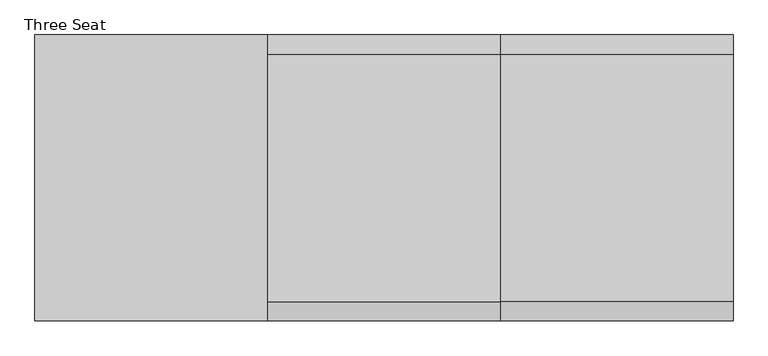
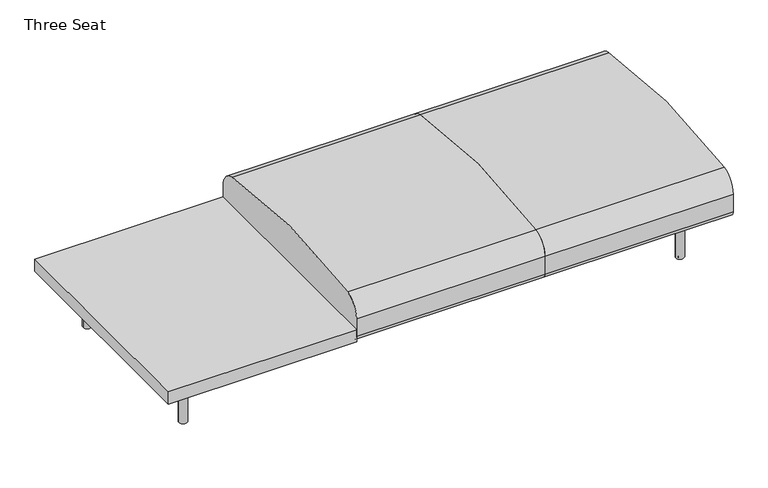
"""IFC4 building model written with IfcOpenShell, lengths in millimetres: furniture geometry, Coalesse_AM_Seating_LoungeChair_Sistema_LegBase_ThreeSeat : Three Seat."""

import ifcopenshell
import ifcopenshell.guid

model = None  # the IFC model being written
_history = None  # IfcOwnerHistory: only IFC2X3 demands one
_inside = {}  # id of a spatial element -> (the spatial element, [elements in it])
_under = {}  # id of a project, library or spatial element -> (it, [spatial elements below it])
_declared = {}  # id of a project -> (the project, [libraries it declares])
_typed = {}  # id of a type object -> (the type object, [elements of that type])
_made_of = {}  # id of a material, layer set ... -> (it, [elements and type objects made of it])


def new_model(schema):
    """Start an empty IFC model of exactly this schema.

    Asked for "IFC4X3", IfcOpenShell would pick the latest addendum, in which some entities
    have other attributes; the version numbers below select the first issue.
    IFC2X3 requires an IfcOwnerHistory on every rooted entity: one is made here for all.
    """
    global model, _history
    if schema == "IFC4X3":
        model = ifcopenshell.file(schema_version=(4, 3, 0, 0))
    else:
        model = ifcopenshell.file(schema=schema)
    _inside.clear()
    _under.clear()
    _declared.clear()
    _typed.clear()
    _made_of.clear()
    _history = None
    if model.schema == "IFC2X3":
        org = make("IfcOrganization", Name="unknown")
        user = make(
            "IfcPersonAndOrganization",
            ThePerson=make("IfcPerson", FamilyName="unknown"),
            TheOrganization=org,
        )
        app = make(
            "IfcApplication",
            ApplicationDeveloper=org,
            Version="unknown",
            ApplicationFullName="unknown",
            ApplicationIdentifier="unknown",
        )
        _history = make(
            "IfcOwnerHistory",
            OwningUser=user,
            OwningApplication=app,
            ChangeAction="ADDED",
            CreationDate=0,
        )
    return model


def make(cls, **values):
    """One entity of the class cls with the attributes given. An attribute that is None is left unset."""
    return model.create_entity(
        cls, **{name: value for name, value in values.items() if value is not None}
    )


def rooted(cls, **values):
    """An entity with a GlobalId (a new one), such as an element, a storey or a relation."""
    return make(cls, GlobalId=ifcopenshell.guid.new(), OwnerHistory=_history, **values)


def si_unit(unit_type, name, prefix=None):
    """IfcSIUnit, for example si_unit("LENGTHUNIT", "METRE", prefix="MILLI")."""
    return make("IfcSIUnit", UnitType=unit_type, Prefix=prefix, Name=name)


def assignment(units):
    """IfcUnitAssignment: the units of a project."""
    return None if units is None else make("IfcUnitAssignment", Units=units)


def point(xyz):
    """IfcCartesianPoint."""
    return None if xyz is None else make("IfcCartesianPoint", Coordinates=xyz)


def direction(xyz):
    """IfcDirection."""
    return None if xyz is None else make("IfcDirection", DirectionRatios=xyz)


def frame(location, z_axis=None, x_axis=None):
    """IfcAxis2Placement3D, a coordinate frame: its origin and axes. An axis left out is left unset."""
    return make(
        "IfcAxis2Placement3D",
        Location=point(location),
        Axis=direction(z_axis),
        RefDirection=direction(x_axis),
    )


def frame_2d(location, x_axis=None):
    """IfcAxis2Placement2D, a coordinate frame in the plane: its origin and x axis."""
    return make(
        "IfcAxis2Placement2D", Location=point(location), RefDirection=direction(x_axis)
    )


def origin():
    """The frame at (0, 0, 0) with its axes left unset."""
    return frame((0.0, 0.0, 0.0))


def origin_with_axes():
    """The frame at (0, 0, 0) with the z axis (0, 0, 1) and the x axis (1, 0, 0) written out."""
    return frame((0.0, 0.0, 0.0), z_axis=(0.0, 0.0, 1.0), x_axis=(1.0, 0.0, 0.0))


def place(relative_to, where):
    """IfcLocalPlacement: puts the frame where relative to a parent placement (None: the world)."""
    return make(
        "IfcLocalPlacement", PlacementRelTo=relative_to, RelativePlacement=where
    )


def context(
    kind, dimensions, precision=None, world=None, true_north=None, identifier=None
):
    """IfcGeometricRepresentationContext, for example the 3D "Model" context."""
    return make(
        "IfcGeometricRepresentationContext",
        ContextIdentifier=identifier,
        ContextType=kind,
        CoordinateSpaceDimension=dimensions,
        Precision=precision,
        WorldCoordinateSystem=world,
        TrueNorth=true_north,
    )


def project(units=None, contexts=None):
    """IfcProject with its units and contexts."""
    return rooted(
        "IfcProject",
        Name="project",
        RepresentationContexts=contexts,
        UnitsInContext=assignment(units),
    )


def spatial(cls, under=None, at=None, **own):
    """A site, building, storey or space (cls), placed at a placement, below another one or the project."""
    s = rooted(cls, ObjectPlacement=at, **own)
    if under is not None:
        _under.setdefault(under.id(), (under, []))[1].append(s)
    return s


def polyline(points):
    """IfcPolyline through the points."""
    return make("IfcPolyline", Points=[point(p) for p in points])


def circle_curve(where, radius):
    """IfcCircle in the frame where."""
    return make("IfcCircle", Position=where, Radius=radius)


def trimmed(basis, trim1, trim2, sense, master):
    """IfcTrimmedCurve: the piece of a basis curve between two trims."""
    return make(
        "IfcTrimmedCurve",
        BasisCurve=basis,
        Trim1=trim1,
        Trim2=trim2,
        SenseAgreement=sense,
        MasterRepresentation=master,
    )


def segment(curve, same_sense, transition):
    """IfcCompositeCurveSegment."""
    return make(
        "IfcCompositeCurveSegment",
        Transition=transition,
        SameSense=same_sense,
        ParentCurve=curve,
    )


def composite_curve(segments, self_intersect=None):
    """IfcCompositeCurve: segments joined end to end."""
    return make("IfcCompositeCurve", Segments=segments, SelfIntersect=self_intersect)


def outline(outer, holes=None, kind="AREA"):
    """IfcArbitraryClosedProfileDef: a profile drawn as a closed curve; with holes, ...WithVoids."""
    if holes is None:
        return make("IfcArbitraryClosedProfileDef", ProfileType=kind, OuterCurve=outer)
    return make(
        "IfcArbitraryProfileDefWithVoids",
        ProfileType=kind,
        OuterCurve=outer,
        InnerCurves=holes,
    )


def extrude(swept, where, along, depth):
    """IfcExtrudedAreaSolid: the profile swept, set in the frame where, extruded along a direction by depth."""
    return make(
        "IfcExtrudedAreaSolid",
        SweptArea=swept,
        Position=where,
        ExtrudedDirection=direction(along),
        Depth=depth,
    )


def shape(context_of_items, identifier, shape_type, items):
    """IfcShapeRepresentation: the items that make up one representation, for example the "Body"."""
    return make(
        "IfcShapeRepresentation",
        ContextOfItems=context_of_items,
        RepresentationIdentifier=identifier,
        RepresentationType=shape_type,
        Items=items,
    )


def source(mapping_origin, context_of_items, identifier, shape_type, items):
    """IfcRepresentationMap: a shape defined once, which mapped items show again and again."""
    return make(
        "IfcRepresentationMap",
        MappingOrigin=mapping_origin,
        MappedRepresentation=shape(context_of_items, identifier, shape_type, items),
    )


def transform(
    local_origin,
    x_axis=None,
    y_axis=None,
    z_axis=None,
    scale=None,
    scale2=None,
    scale3=None,
    uniform=True,
):
    """IfcCartesianTransformationOperator3D, or its non-uniform kind. x_axis, y_axis, z_axis: its Axis1, 2, 3."""
    if uniform:
        return make(
            "IfcCartesianTransformationOperator3D",
            Axis1=direction(x_axis),
            Axis2=direction(y_axis),
            LocalOrigin=point(local_origin),
            Scale=scale,
            Axis3=direction(z_axis),
        )
    return make(
        "IfcCartesianTransformationOperator3DnonUniform",
        Axis1=direction(x_axis),
        Axis2=direction(y_axis),
        LocalOrigin=point(local_origin),
        Scale=scale,
        Axis3=direction(z_axis),
        Scale2=scale2,
        Scale3=scale3,
    )


def mapped(mapping_source, mapping_target):
    """IfcMappedItem: shows the shape of a source again, moved by a transform."""
    return make(
        "IfcMappedItem", MappingSource=mapping_source, MappingTarget=mapping_target
    )


def made_of(thing, what):
    """Note that an element or type object is made of a material, layer set ...; save() writes the relation."""
    if what is not None:
        _made_of.setdefault(what.id(), (what, []))[1].append(thing)
    return thing


def element(
    cls,
    number,
    at=None,
    inside=None,
    cuts=None,
    type_object=None,
    material=None,
    context=None,
    identifier="Body",
    shape_type=None,
    held_by="IfcProductDefinitionShape",
    body=None,
    shapes=None,
    **own,
):
    """One element of the class cls, such as IfcWall. Its Tag is "e" and its number.

    at: its placement. inside: the storey or other place that contains it. cuts: it is an
    opening in that element (IfcRelVoidsElement). A single representation is given by context,
    identifier, shape_type and body (its items); several are given by shapes. held_by: the class
    of the entity that holds the representations. save() writes the other relations.
    """
    e = rooted(cls, Tag="e%d" % number, ObjectPlacement=at, **own)
    if body is not None:
        shapes = [shape(context, identifier, shape_type, body)]
    if shapes is not None:
        e.Representation = make(held_by, Representations=shapes)
    if inside is not None:
        _inside.setdefault(inside.id(), (inside, []))[1].append(e)
    if cuts is not None:
        rooted(
            "IfcRelVoidsElement", RelatingBuildingElement=cuts, RelatedOpeningElement=e
        )
    if type_object is not None:
        _typed.setdefault(type_object.id(), (type_object, []))[1].append(e)
    return made_of(e, material)


def aggregate(whole, parts):
    """IfcRelAggregates: a whole, such as a stair, and the parts it consists of."""
    return rooted("IfcRelAggregates", RelatingObject=whole, RelatedObjects=parts)


def save(model, path):
    """Write the relations noted so far, then the file.

    IfcRelAggregates (storeys below a building ...), IfcRelContainedInSpatialStructure (elements
    in a storey), IfcRelDefinesByType, IfcRelAssociatesMaterial and IfcRelDeclares: one each for
    every whole, place, type object, material and project.
    """
    for whole, parts in _under.values():
        aggregate(whole, parts)
    for where, things in _inside.values():
        rooted(
            "IfcRelContainedInSpatialStructure",
            RelatedElements=things,
            RelatingStructure=where,
        )
    for kind, things in _typed.values():
        rooted("IfcRelDefinesByType", RelatedObjects=things, RelatingType=kind)
    for what, things in _made_of.values():
        rooted("IfcRelAssociatesMaterial", RelatedObjects=things, RelatingMaterial=what)
    for by, libraries in _declared.values():
        rooted("IfcRelDeclares", RelatingContext=by, RelatedDefinitions=libraries)
    model.write(path)


def three_seat_c71d713e(model_context):
    return source(origin(), model_context, "Body", "SweptSolid", [
        extrude(outline(polyline([(374.4965227, 459.4795619), (374.4965227, -461.2704381), (-374.8034773, -461.2704381), (-374.8034773, 459.4795619), (374.4965227, 459.4795619)])), frame((0.0, 0.0, 204.47), z_axis=(0.0, 0.0, 1.0), x_axis=(1.0, 0.0, 0.0)), (0.0, 0.0, 1.0), 51.0294654),
        extrude(outline(composite_curve([segment(trimmed(circle_curve(frame_2d((-438.9184381, 226.822)), 22.352), [point((-438.9184381, 204.47))], [point((-461.2704381, 226.822))], False, "CARTESIAN"), True, "CONTINUOUS"), segment(polyline([(-461.2704381, 226.822), (-461.2704381, 301.4421993)]), True, "CONTINUOUS"), segment(trimmed(circle_curve(frame_2d((-385.0704381, 301.4421993)), 76.2), [point((-461.2704381, 301.4421993))], [point((-398.9279534, 376.3715612))], False, "CARTESIAN"), True, "CONTINUOUS"), segment(trimmed(circle_curve(frame_2d((-0.3717831, -1778.6727457)), 2191.5891461), [point((-398.9279534, 376.3715612))], [point((397.0993513, 376.5719464))], False, "CARTESIAN"), True, "CONTINUOUS"), segment(trimmed(circle_curve(frame_2d((383.2795619, 301.6356173)), 76.2), [point((397.0993513, 376.5719464))], [point((459.4795619, 301.6356173))], False, "CARTESIAN"), True, "CONTINUOUS"), segment(polyline([(459.4795619, 301.6356173), (459.4795619, 226.7871991)]), True, "CONTINUOUS"), segment(trimmed(circle_curve(frame_2d((437.1623628, 226.7871991)), 22.3171991), [point((459.4795619, 226.7871991))], [point((437.1623628, 204.47))], False, "CARTESIAN"), True, "CONTINUOUS"), segment(polyline([(437.1623628, 204.47), (-438.9184381, 204.47)]), True, "CONTINUOUS")], self_intersect=False)), frame((374.4965227, 0.0, 0.0), z_axis=(1.0, 0.0, 0.0), x_axis=(0.0, 1.0, 0.0)), (0.0, 0.0, 1.0), 749.3),
        extrude(outline(composite_curve([segment(trimmed(circle_curve(frame_2d((-438.9184381, 226.822)), 22.352), [point((-438.9184381, 204.47))], [point((-461.2704381, 226.822))], False, "CARTESIAN"), True, "CONTINUOUS"), segment(polyline([(-461.2704381, 226.822), (-461.2704381, 301.4421993)]), True, "CONTINUOUS"), segment(trimmed(circle_curve(frame_2d((-385.0704381, 301.4421993)), 76.2), [point((-461.2704381, 301.4421993))], [point((-398.9279534, 376.3715612))], False, "CARTESIAN"), True, "CONTINUOUS"), segment(trimmed(circle_curve(frame_2d((-0.3717831, -1778.6727457)), 2191.5891461), [point((-398.9279534, 376.3715612))], [point((397.0993513, 376.5719464))], False, "CARTESIAN"), True, "CONTINUOUS"), segment(trimmed(circle_curve(frame_2d((383.2795619, 301.6356173)), 76.2), [point((397.0993513, 376.5719464))], [point((459.4795619, 301.6356173))], False, "CARTESIAN"), True, "CONTINUOUS"), segment(polyline([(459.4795619, 301.6356173), (459.4795619, 226.7871991)]), True, "CONTINUOUS"), segment(trimmed(circle_curve(frame_2d((437.1623628, 226.7871991)), 22.3171991), [point((459.4795619, 226.7871991))], [point((437.1623628, 204.47))], False, "CARTESIAN"), True, "CONTINUOUS"), segment(polyline([(437.1623628, 204.47), (-438.9184381, 204.47)]), True, "CONTINUOUS")], self_intersect=False)), frame((1123.7965227, 0.0, 0.0), z_axis=(1.0, 0.0, 0.0), x_axis=(0.0, 1.0, 0.0)), (0.0, 0.0, 1.0), 749.3),
        extrude(outline(composite_curve([segment(trimmed(circle_curve(frame_2d((1738.4765227, 335.9943389)), 6.096), [point((1744.5725227, 335.9943389))], [point((1732.3805227, 335.9943389))], False, "CARTESIAN"), True, "CONTINUOUS"), segment(trimmed(circle_curve(frame_2d((1738.4765227, 335.9943389)), 6.096), [point((1732.3805227, 335.9943389))], [point((1744.5725227, 335.9943389))], False, "CARTESIAN"), True, "CONTINUOUS")], self_intersect=False)), origin_with_axes(), (0.0, 0.0, 1.0), 4.3662291),
        extrude(outline(composite_curve([segment(trimmed(circle_curve(frame_2d((1738.4765227, -327.2630889)), 6.096), [point((1744.5725227, -327.2630889))], [point((1732.3805227, -327.2630889))], False, "CARTESIAN"), True, "CONTINUOUS"), segment(trimmed(circle_curve(frame_2d((1738.4765227, -327.2630889)), 6.096), [point((1732.3805227, -327.2630889))], [point((1744.5725227, -327.2630889))], False, "CARTESIAN"), True, "CONTINUOUS")], self_intersect=False)), origin_with_axes(), (0.0, 0.0, 1.0), 4.3662291),
        extrude(outline(composite_curve([segment(polyline([(157.0399209, 1751.056375), (201.7356243, 1751.056375)]), True, "CONTINUOUS"), segment(trimmed(circle_curve(frame_2d((201.7356243, 1748.008375)), 3.048), [point((201.7356243, 1751.056375))], [point((204.7836243, 1748.008375))], False, "CARTESIAN"), True, "CONTINUOUS"), segment(polyline([(204.7836243, 1748.008375), (204.7836243, 1728.666199)]), True, "CONTINUOUS"), segment(trimmed(circle_curve(frame_2d((201.7356243, 1728.666199)), 3.048), [point((204.7836243, 1728.666199))], [point((201.7356243, 1725.618199))], False, "CARTESIAN"), True, "CONTINUOUS"), segment(polyline([(201.7356243, 1725.618199), (157.1249936, 1725.618199)]), True, "CONTINUOUS"), segment(trimmed(circle_curve(frame_2d((157.1249936, 1728.7512718)), 3.1330728), [point((157.1249936, 1725.618199))], [point((153.9919209, 1728.7512718))], False, "CARTESIAN"), True, "CONTINUOUS"), segment(polyline([(153.9919209, 1728.7512718), (153.9919209, 1748.008375)]), True, "CONTINUOUS"), segment(trimmed(circle_curve(frame_2d((157.0399209, 1748.008375)), 3.048), [point((153.9919209, 1748.008375))], [point((157.0399209, 1751.056375))], False, "CARTESIAN"), True, "CONTINUOUS")], self_intersect=False)), frame((0.0, 222.3519802, 0.0), z_axis=(0.0, 1.0, 0.0), x_axis=(0.0, 0.0, 1.0)), (0.0, 0.0, 1.0), 92.6273161),
        extrude(outline(composite_curve([segment(polyline([(157.0399209, 1751.056375), (201.7356243, 1751.056375)]), True, "CONTINUOUS"), segment(trimmed(circle_curve(frame_2d((201.7356243, 1748.008375)), 3.048), [point((201.7356243, 1751.056375))], [point((204.7836243, 1748.008375))], False, "CARTESIAN"), True, "CONTINUOUS"), segment(polyline([(204.7836243, 1748.008375), (204.7836243, 1728.666199)]), True, "CONTINUOUS"), segment(trimmed(circle_curve(frame_2d((201.7356243, 1728.666199)), 3.048), [point((204.7836243, 1728.666199))], [point((201.7356243, 1725.618199))], False, "CARTESIAN"), True, "CONTINUOUS"), segment(polyline([(201.7356243, 1725.618199), (157.1249936, 1725.618199)]), True, "CONTINUOUS"), segment(trimmed(circle_curve(frame_2d((157.1249936, 1728.7512718)), 3.1330728), [point((157.1249936, 1725.618199))], [point((153.9919209, 1728.7512718))], False, "CARTESIAN"), True, "CONTINUOUS"), segment(polyline([(153.9919209, 1728.7512718), (153.9919209, 1748.008375)]), True, "CONTINUOUS"), segment(trimmed(circle_curve(frame_2d((157.0399209, 1748.008375)), 3.048), [point((153.9919209, 1748.008375))], [point((157.0399209, 1751.056375))], False, "CARTESIAN"), True, "CONTINUOUS")], self_intersect=False)), frame((0.0, -314.9792963, 0.0), z_axis=(0.0, 1.0, 0.0), x_axis=(0.0, 0.0, 1.0)), (0.0, 0.0, 1.0), 92.6273161),
        extrude(outline(composite_curve([segment(trimmed(circle_curve(frame_2d((176.3356606, 1715.8259944)), 3.048), [point((179.3836606, 1715.8259944))], [point((176.3356606, 1712.7779944))], False, "CARTESIAN"), True, "CONTINUOUS"), segment(polyline([(176.3356606, 1712.7779944), (157.0399209, 1712.7779944)]), True, "CONTINUOUS"), segment(trimmed(circle_curve(frame_2d((157.0399209, 1715.8259944)), 3.048), [point((157.0399209, 1712.7779944))], [point((153.9919209, 1715.8259944))], False, "CARTESIAN"), True, "CONTINUOUS"), segment(polyline([(153.9919209, 1715.8259944), (153.9919209, 1760.5135501)]), True, "CONTINUOUS"), segment(trimmed(circle_curve(frame_2d((157.056462, 1760.5135501)), 3.0645412), [point((153.9919209, 1760.5135501))], [point((157.056462, 1763.5780913))], False, "CARTESIAN"), True, "CONTINUOUS"), segment(polyline([(157.056462, 1763.5780913), (176.3356606, 1763.5780913)]), True, "CONTINUOUS"), segment(trimmed(circle_curve(frame_2d((176.3356606, 1760.5300913)), 3.048), [point((176.3356606, 1763.5780913))], [point((179.3836606, 1760.5300913))], False, "CARTESIAN"), True, "CONTINUOUS"), segment(polyline([(179.3836606, 1760.5300913), (179.3836606, 1715.8259944)]), True, "CONTINUOUS")], self_intersect=False)), frame((0.0, -222.3519802, 0.0), z_axis=(0.0, 1.0, 0.0), x_axis=(0.0, 0.0, 1.0)), (0.0, 0.0, 1.0), 444.7039604),
        extrude(outline(composite_curve([segment(trimmed(circle_curve(frame_2d((1738.4765227, 332.3095741)), 16.51), [point((1754.9865227, 332.3095741))], [point((1721.9665227, 332.3095741))], False, "CARTESIAN"), True, "CONTINUOUS"), segment(trimmed(circle_curve(frame_2d((1738.4765227, 332.3095741)), 16.51), [point((1721.9665227, 332.3095741))], [point((1754.9865227, 332.3095741))], False, "CARTESIAN"), True, "CONTINUOUS")], self_intersect=False)), frame((0.0, 0.0, 4.3662291), z_axis=(0.0, 0.0, 1.0), x_axis=(1.0, 0.0, 0.0)), (0.0, 0.0, 1.0), 200.1037709),
        extrude(outline(composite_curve([segment(trimmed(circle_curve(frame_2d((1738.0796477, -327.5470741)), 16.51), [point((1754.5896477, -327.5470741))], [point((1721.5696477, -327.5470741))], False, "CARTESIAN"), True, "CONTINUOUS"), segment(trimmed(circle_curve(frame_2d((1738.0796477, -327.5470741)), 16.51), [point((1721.5696477, -327.5470741))], [point((1754.5896477, -327.5470741))], False, "CARTESIAN"), True, "CONTINUOUS")], self_intersect=False)), frame((0.0, 0.0, 4.3662291), z_axis=(0.0, 0.0, 1.0), x_axis=(1.0, 0.0, 0.0)), (0.0, 0.0, 1.0), 200.1037709),
        extrude(outline(composite_curve([segment(trimmed(circle_curve(frame_2d((-240.1834773, 335.9943389)), 6.096), [point((-246.2794773, 335.9943389))], [point((-234.0874773, 335.9943389))], False, "CARTESIAN"), True, "CONTINUOUS"), segment(trimmed(circle_curve(frame_2d((-240.1834773, 335.9943389)), 6.096), [point((-234.0874773, 335.9943389))], [point((-246.2794773, 335.9943389))], False, "CARTESIAN"), True, "CONTINUOUS")], self_intersect=False)), origin_with_axes(), (0.0, 0.0, 1.0), 4.3662291),
        extrude(outline(composite_curve([segment(trimmed(circle_curve(frame_2d((-240.1834773, -327.2630889)), 6.096), [point((-246.2794773, -327.2630889))], [point((-234.0874773, -327.2630889))], False, "CARTESIAN"), True, "CONTINUOUS"), segment(trimmed(circle_curve(frame_2d((-240.1834773, -327.2630889)), 6.096), [point((-234.0874773, -327.2630889))], [point((-246.2794773, -327.2630889))], False, "CARTESIAN"), True, "CONTINUOUS")], self_intersect=False)), origin_with_axes(), (0.0, 0.0, 1.0), 4.3662291),
        extrude(outline(composite_curve([segment(trimmed(circle_curve(frame_2d((157.0399209, -249.7153296)), 3.048), [point((157.0399209, -252.7633296))], [point((153.9919209, -249.7153296))], False, "CARTESIAN"), True, "CONTINUOUS"), segment(polyline([(153.9919209, -249.7153296), (153.9919209, -230.4582264)]), True, "CONTINUOUS"), segment(trimmed(circle_curve(frame_2d((157.1249936, -230.4582264)), 3.1330728), [point((153.9919209, -230.4582264))], [point((157.1249936, -227.3251537))], False, "CARTESIAN"), True, "CONTINUOUS"), segment(polyline([(157.1249936, -227.3251537), (201.7356243, -227.3251537)]), True, "CONTINUOUS"), segment(trimmed(circle_curve(frame_2d((201.7356243, -230.3731537)), 3.048), [point((201.7356243, -227.3251537))], [point((204.7836243, -230.3731537))], False, "CARTESIAN"), True, "CONTINUOUS"), segment(polyline([(204.7836243, -230.3731537), (204.7836243, -249.7153296)]), True, "CONTINUOUS"), segment(trimmed(circle_curve(frame_2d((201.7356243, -249.7153296)), 3.048), [point((204.7836243, -249.7153296))], [point((201.7356243, -252.7633296))], False, "CARTESIAN"), True, "CONTINUOUS"), segment(polyline([(201.7356243, -252.7633296), (157.0399209, -252.7633296)]), True, "CONTINUOUS")], self_intersect=False)), frame((0.0, 222.3519802, 0.0), z_axis=(0.0, 1.0, 0.0), x_axis=(0.0, 0.0, 1.0)), (0.0, 0.0, 1.0), 92.6273161),
        extrude(outline(composite_curve([segment(trimmed(circle_curve(frame_2d((157.0399209, -249.7153296)), 3.048), [point((157.0399209, -252.7633296))], [point((153.9919209, -249.7153296))], False, "CARTESIAN"), True, "CONTINUOUS"), segment(polyline([(153.9919209, -249.7153296), (153.9919209, -230.4582264)]), True, "CONTINUOUS"), segment(trimmed(circle_curve(frame_2d((157.1249936, -230.4582264)), 3.1330728), [point((153.9919209, -230.4582264))], [point((157.1249936, -227.3251537))], False, "CARTESIAN"), True, "CONTINUOUS"), segment(polyline([(157.1249936, -227.3251537), (201.7356243, -227.3251537)]), True, "CONTINUOUS"), segment(trimmed(circle_curve(frame_2d((201.7356243, -230.3731537)), 3.048), [point((201.7356243, -227.3251537))], [point((204.7836243, -230.3731537))], False, "CARTESIAN"), True, "CONTINUOUS"), segment(polyline([(204.7836243, -230.3731537), (204.7836243, -249.7153296)]), True, "CONTINUOUS"), segment(trimmed(circle_curve(frame_2d((201.7356243, -249.7153296)), 3.048), [point((204.7836243, -249.7153296))], [point((201.7356243, -252.7633296))], False, "CARTESIAN"), True, "CONTINUOUS"), segment(polyline([(201.7356243, -252.7633296), (157.0399209, -252.7633296)]), True, "CONTINUOUS")], self_intersect=False)), frame((0.0, -314.9792963, 0.0), z_axis=(0.0, 1.0, 0.0), x_axis=(0.0, 0.0, 1.0)), (0.0, 0.0, 1.0), 92.6273161),
        extrude(outline(composite_curve([segment(polyline([(179.3836606, -217.532949), (179.3836606, -262.2370459)]), True, "CONTINUOUS"), segment(trimmed(circle_curve(frame_2d((176.3356606, -262.2370459)), 3.048), [point((179.3836606, -262.2370459))], [point((176.3356606, -265.2850459))], False, "CARTESIAN"), True, "CONTINUOUS"), segment(polyline([(176.3356606, -265.2850459), (157.056462, -265.2850459)]), True, "CONTINUOUS"), segment(trimmed(circle_curve(frame_2d((157.056462, -262.2205047)), 3.0645412), [point((157.056462, -265.2850459))], [point((153.9919209, -262.2205047))], False, "CARTESIAN"), True, "CONTINUOUS"), segment(polyline([(153.9919209, -262.2205047), (153.9919209, -217.532949)]), True, "CONTINUOUS"), segment(trimmed(circle_curve(frame_2d((157.0399209, -217.532949)), 3.048), [point((153.9919209, -217.532949))], [point((157.0399209, -214.484949))], False, "CARTESIAN"), True, "CONTINUOUS"), segment(polyline([(157.0399209, -214.484949), (176.3356606, -214.484949)]), True, "CONTINUOUS"), segment(trimmed(circle_curve(frame_2d((176.3356606, -217.532949)), 3.048), [point((176.3356606, -214.484949))], [point((179.3836606, -217.532949))], False, "CARTESIAN"), True, "CONTINUOUS")], self_intersect=False)), frame((0.0, -222.3519802, 0.0), z_axis=(0.0, 1.0, 0.0), x_axis=(0.0, 0.0, 1.0)), (0.0, 0.0, 1.0), 444.7039604),
        extrude(outline(composite_curve([segment(trimmed(circle_curve(frame_2d((-240.1834773, 332.3095741)), 16.51), [point((-256.6934773, 332.3095741))], [point((-223.6734773, 332.3095741))], False, "CARTESIAN"), True, "CONTINUOUS"), segment(trimmed(circle_curve(frame_2d((-240.1834773, 332.3095741)), 16.51), [point((-223.6734773, 332.3095741))], [point((-256.6934773, 332.3095741))], False, "CARTESIAN"), True, "CONTINUOUS")], self_intersect=False)), frame((0.0, 0.0, 4.3662291), z_axis=(0.0, 0.0, 1.0), x_axis=(1.0, 0.0, 0.0)), (0.0, 0.0, 1.0), 200.1037709),
        extrude(outline(composite_curve([segment(trimmed(circle_curve(frame_2d((-239.7866023, -327.5470741)), 16.51), [point((-256.2966023, -327.5470741))], [point((-223.2766023, -327.5470741))], False, "CARTESIAN"), True, "CONTINUOUS"), segment(trimmed(circle_curve(frame_2d((-239.7866023, -327.5470741)), 16.51), [point((-223.2766023, -327.5470741))], [point((-256.2966023, -327.5470741))], False, "CARTESIAN"), True, "CONTINUOUS")], self_intersect=False)), frame((0.0, 0.0, 4.3662291), z_axis=(0.0, 0.0, 1.0), x_axis=(1.0, 0.0, 0.0)), (0.0, 0.0, 1.0), 200.1037709),
    ])


if __name__ == "__main__":
    model = new_model("IFC4")
    model_context = context("Model", 3, world=origin())
    ifc_project = project(units=[si_unit("LENGTHUNIT", "METRE", prefix="MILLI")], contexts=[model_context])
    site = spatial("IfcSite", under=ifc_project)
    building = spatial("IfcBuilding", under=site)
    placement = place(None, origin())
    three_seat_shape = three_seat_c71d713e(model_context)
    element("IfcFurniture", 1, ObjectType="Coalesse_AM_Seating_LoungeChair_Sistema_LegBase_ThreeSeat : Three Seat", at=placement, inside=building, context=model_context, shape_type="MappedRepresentation", body=[
        mapped(three_seat_shape, transform((0.0, 0.0, 0.0), x_axis=(1.0, 0.0, 0.0), y_axis=(0.0, 1.0, 0.0), z_axis=(0.0, 0.0, 1.0))),
    ])
    save(model, "model.ifc")
